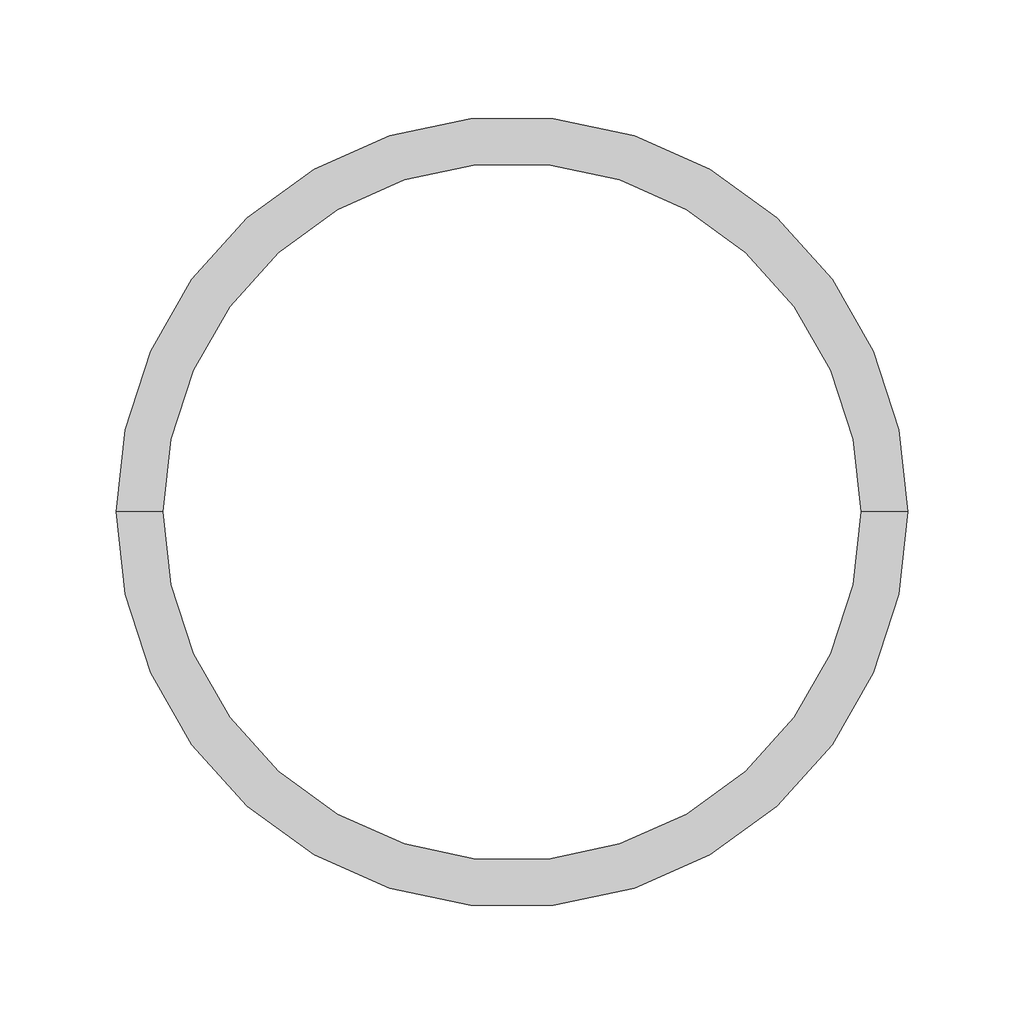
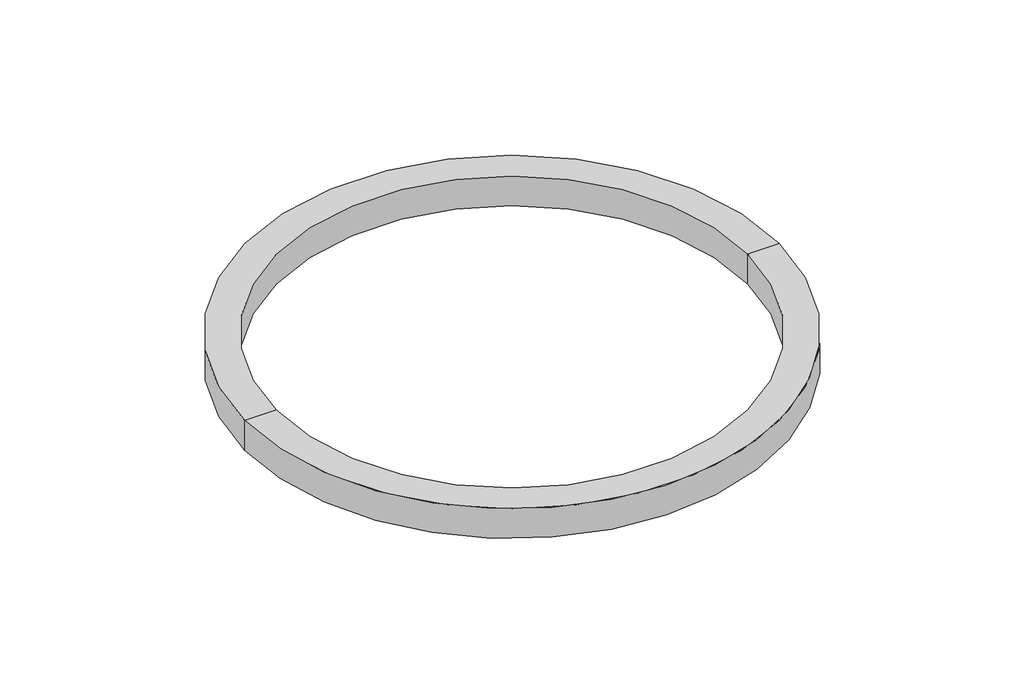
# One storey: 1 proxy.
"""IFC4 building model written with IfcOpenShell, lengths in millimetres."""

from ifc_helpers import new_model, si_unit, frame, origin, place, context, project, spatial, polyline, circle_curve, element, save
from ifc_brep_helpers import plane_surface, cylinder_surface, revolved_surface, advanced_brep

model = new_model("IFC4")

# Units and contexts
model_context = context("Model", 3, world=origin())
ifc_project = project(units=[si_unit("LENGTHUNIT", "METRE", prefix="MILLI")], contexts=[model_context])

# Site, building, storey
site = spatial("IfcSite", under=ifc_project)
building = spatial("IfcBuilding", under=site)
storey = spatial("IfcBuildingStorey", under=building, Name="- 1.2 Sopra AKTI-VO", Elevation=-2990.0)

# Proxy
placement = place(None, origin())
element("IfcBuildingElementProxy", 1, Name="WT CONSTRUCTION VOLTECO", ObjectType="WT CONSTRUCTION VOLTECO", at=placement, inside=storey, context=model_context, shape_type="AdvancedBrep", body=[
    advanced_brep(
    [(577.6847794, -14630.9443695, -2970.0), (577.6847794, -14630.9443695, -2990.0), (917.6847794, -14630.9443695, -2990.0), (917.6847794, -14630.9443695, -2970.0), (597.6847794, -14630.9443695, -2970.0), (897.6847794, -14630.9443695, -2970.0), (597.6847794, -14630.9443695, -2990.0), (897.6847794, -14630.9443695, -2990.0)],
    [
        (0, 1),
        (1, 2, circle_curve(frame((747.6847794, -14630.9443695, -2990.0), z_axis=(0.0, 0.0, 1.0), x_axis=(-1.0, 0.0, 0.0)), 170.0)),
        (2, 3),
        (3, 0, circle_curve(frame((747.6847794, -14630.9443695, -2970.0), z_axis=(0.0, 0.0, -1.0), x_axis=(-1.0, 0.0, 0.0)), 170.0)),
        (4, 0),
        (3, 5),
        (5, 4, circle_curve(frame((747.6847794, -14630.9443695, -2970.0), z_axis=(0.0, 0.0, -1.0), x_axis=(-1.0, 0.0, 0.0)), 150.0)),
        (6, 4),
        (5, 7),
        (7, 6, circle_curve(frame((747.6847794, -14630.9443695, -2990.0), z_axis=(0.0, 0.0, -1.0), x_axis=(-1.0, 0.0, 0.0)), 150.0)),
        (1, 6),
        (7, 2),
        (0, 3, circle_curve(frame((747.6847794, -14630.9443695, -2970.0), z_axis=(0.0, 0.0, -1.0), x_axis=(1.0, 0.0, 0.0)), 170.0)),
        (2, 1, circle_curve(frame((747.6847794, -14630.9443695, -2990.0), z_axis=(0.0, 0.0, 1.0), x_axis=(1.0, 0.0, 0.0)), 170.0)),
        (4, 5, circle_curve(frame((747.6847794, -14630.9443695, -2970.0), z_axis=(0.0, 0.0, -1.0), x_axis=(1.0, 0.0, 0.0)), 150.0)),
        (6, 7, circle_curve(frame((747.6847794, -14630.9443695, -2990.0), z_axis=(0.0, 0.0, -1.0), x_axis=(1.0, 0.0, 0.0)), 150.0)),
    ],
    [
        cylinder_surface(frame((747.6847794, -14630.9443695, -2900.0), z_axis=(0.0, 0.0, 1.0), x_axis=(-1.0, 0.0, 0.0)), 170.0),
        plane_surface(frame((747.6847794, -14630.9443695, -2970.0), z_axis=(0.0, 0.0, 1.0), x_axis=(-1.0, 0.0, 0.0))),
        revolved_surface(polyline([(597.6847794, -14630.9443695, -2970.0), (597.6847794, -14630.9443695, -2990.0)]), (747.6847794, -14630.9443695, -2900.0), (0.0, 0.0, 1.0)),
        plane_surface(frame((747.6847794, -14630.9443695, -2990.0), z_axis=(0.0, 0.0, -1.0), x_axis=(-1.0, 0.0, 0.0))),
        cylinder_surface(frame((747.6847794, -14630.9443695, -2900.0), z_axis=(0.0, 0.0, 1.0), x_axis=(1.0, 0.0, 0.0)), 170.0),
        plane_surface(frame((747.6847794, -14630.9443695, -2970.0), z_axis=(0.0, 0.0, 1.0), x_axis=(1.0, 0.0, 0.0))),
        revolved_surface(polyline([(897.6847794, -14630.9443695, -2970.0), (897.6847794, -14630.9443695, -2990.0)]), (747.6847794, -14630.9443695, -2900.0), (0.0, 0.0, 1.0)),
        plane_surface(frame((747.6847794, -14630.9443695, -2990.0), z_axis=(0.0, 0.0, -1.0), x_axis=(1.0, 0.0, 0.0))),
    ],
    [
        (0, [[1, 2, 3, 4]]),
        (1, [[5, -4, 6, 7]]),
        (2, [[8, -7, 9, 10]]),
        (3, [[11, -10, 12, -2]]),
        (4, [[-1, 13, -3, 14]]),
        (5, [[-5, 15, -6, -13]]),
        (6, [[-8, 16, -9, -15]]),
        (7, [[-11, -14, -12, -16]]),
    ],
),
])

save(model, "model.ifc")
